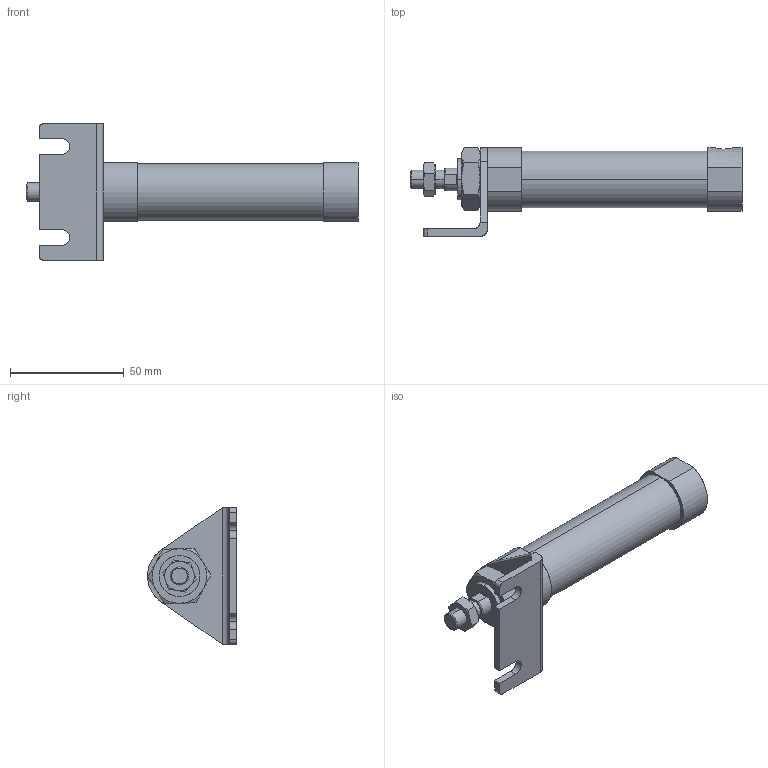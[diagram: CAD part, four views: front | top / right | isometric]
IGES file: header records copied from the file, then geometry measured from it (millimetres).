
Start section: SolidWorks IGES file using analytic representation for surfaces
Global section: file name: C:\Users\Toshiba\Desktop\JGND1-20-15(25)-L.IGS; native system: SolidWorks 2014; preprocessor: SolidWorks 2014; author: Toshiba; date: 160804.101242; units: millimetre
Bounding box: 146 x 39 x 60 mm (x, y, z)
Surface area: 20402.7 mm2 (no closed solid volume)
Topology: 0 solids, 0 shells, 108 faces, 1708 edges, 1708 vertices
Faces by surface type: bspline 72, revolution 36
